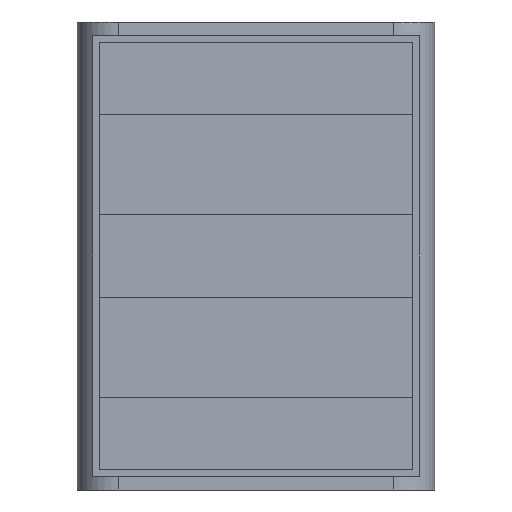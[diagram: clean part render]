
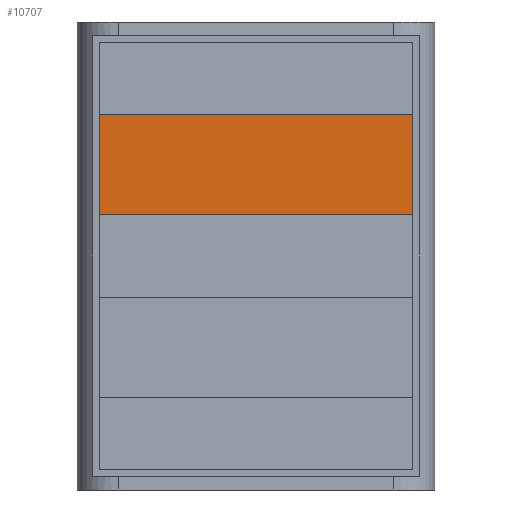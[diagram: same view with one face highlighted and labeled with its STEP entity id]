
A CAD part, front view. The second image highlights one B-rep face of the part: STEP entity #10707.
In plain terms, the highlighted planar face has unit normal (0, -1, 0).
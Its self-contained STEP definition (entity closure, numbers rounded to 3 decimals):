
#8 = LINE ( 'NONE', #4503, #5047 ) ;
#579 = CARTESIAN_POINT ( 'NONE',  ( -56.95, -17., 15. ) ) ;
#885 = ORIENTED_EDGE ( 'NONE', *, *, #4839, .T. ) ;
#923 = DIRECTION ( 'NONE',  ( -1., 0., 0. ) ) ;
#971 = DIRECTION ( 'NONE',  ( 0., 0., -1. ) ) ;
#1713 = CARTESIAN_POINT ( 'NONE',  ( 56.95, -17., 15. ) ) ;
#1806 = EDGE_CURVE ( 'NONE', #4884, #12147, #8, .T. ) ;
#1838 = VECTOR ( 'NONE', #6600, 1000. ) ;
#2299 = LINE ( 'NONE', #579, #7626 ) ;
#3578 = DIRECTION ( 'NONE',  ( 0., 0., -1. ) ) ;
#3801 = CARTESIAN_POINT ( 'NONE',  ( 56.95, -17., 51.5 ) ) ;
#4421 = CARTESIAN_POINT ( 'NONE',  ( 56.95, -17., 51.5 ) ) ;
#4503 = CARTESIAN_POINT ( 'NONE',  ( -56.95, -17., 51.5 ) ) ;
#4580 = VECTOR ( 'NONE', #923, 1000. ) ;
#4711 = CARTESIAN_POINT ( 'NONE',  ( -56.95, -17., 51.5 ) ) ;
#4750 = AXIS2_PLACEMENT_3D ( 'NONE', #5744, #6674, #971 ) ;
#4839 = EDGE_CURVE ( 'NONE', #10572, #7276, #8476, .T. ) ;
#4884 = VERTEX_POINT ( 'NONE', #8538 ) ;
#5047 = VECTOR ( 'NONE', #3578, 1000. ) ;
#5744 = CARTESIAN_POINT ( 'NONE',  ( 0., -17., 0. ) ) ;
#6500 = FACE_OUTER_BOUND ( 'NONE', #10326, .T. ) ;
#6550 = ORIENTED_EDGE ( 'NONE', *, *, #11256, .T. ) ;
#6600 = DIRECTION ( 'NONE',  ( 0., 0., 1. ) ) ;
#6674 = DIRECTION ( 'NONE',  ( 0., -1., 0. ) ) ;
#7178 = DIRECTION ( 'NONE',  ( 1., 0., 0. ) ) ;
#7276 = VERTEX_POINT ( 'NONE', #4421 ) ;
#7370 = LINE ( 'NONE', #4711, #4580 ) ;
#7626 = VECTOR ( 'NONE', #7178, 1000. ) ;
#8190 = ORIENTED_EDGE ( 'NONE', *, *, #11073, .T. ) ;
#8476 = LINE ( 'NONE', #3801, #1838 ) ;
#8538 = CARTESIAN_POINT ( 'NONE',  ( -56.95, -17., 51.5 ) ) ;
#8588 = CARTESIAN_POINT ( 'NONE',  ( -56.95, -17., 15. ) ) ;
#10026 = ORIENTED_EDGE ( 'NONE', *, *, #1806, .T. ) ;
#10326 = EDGE_LOOP ( 'NONE', ( #10026, #8190, #885, #6550 ) ) ;
#10572 = VERTEX_POINT ( 'NONE', #1713 ) ;
#10707 = ADVANCED_FACE ( 'NONE', ( #6500 ), #11286, .T. ) ;
#11073 = EDGE_CURVE ( 'NONE', #12147, #10572, #2299, .T. ) ;
#11256 = EDGE_CURVE ( 'NONE', #7276, #4884, #7370, .T. ) ;
#11286 = PLANE ( 'NONE',  #4750 ) ;
#12147 = VERTEX_POINT ( 'NONE', #8588 ) ;
